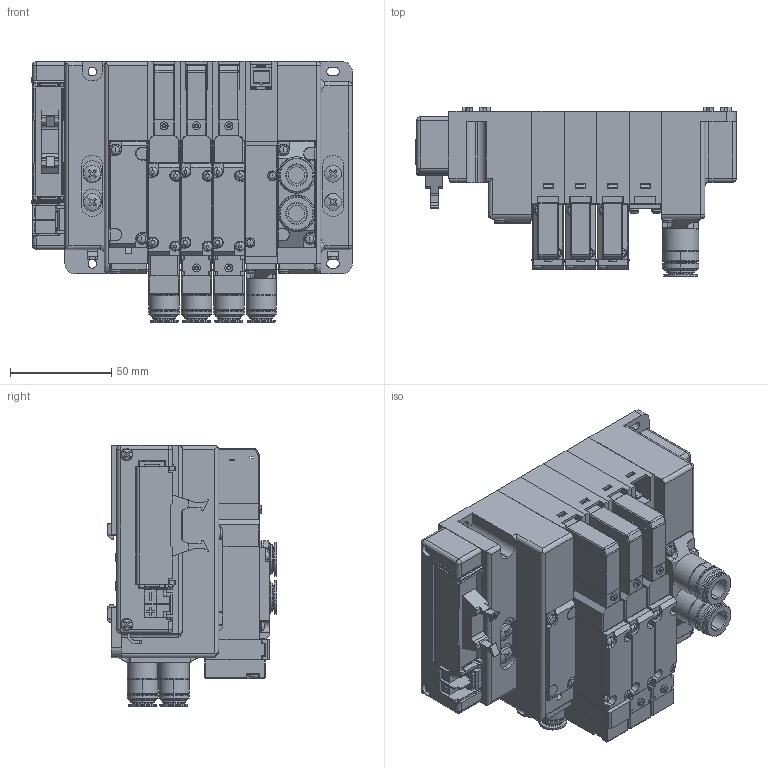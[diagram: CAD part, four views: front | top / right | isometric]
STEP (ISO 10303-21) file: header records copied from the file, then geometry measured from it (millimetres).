
FILE_DESCRIPTION( (''), '2;1');
FILE_NAME ('CVICAD02.4348.F15M4XPJ-JR-F10x-DN_21501.stp','2021-07-12T19:13:05',(''),(''),'spGate 12.6.6','','');
FILE_SCHEMA (('AUTOMOTIVE_DESIGN'));
Length unit declared in the file: millimetre
Products named in the file (21): Assembly; CVICAD02-prt0; CVICAD02-prt1; CVICAD02-prt2; CVICAD02-prt3; CVICAD02-asm1; CVICAD02-prt6; CVICAD02-prt7; CVICAD02-asm2; CVICAD02-asm3; CVICAD02-prt16; CVICAD02-prt4; CVICAD02-prt5; CVICAD02-prt8; CVICAD02-prt9; CVICAD02-prt10; CVICAD02-prt11; CVICAD02-prt12; CVICAD02-prt13; CVICAD02-prt14; CVICAD02-prt15
Assembly tree (35 placements, depth 3):
  Assembly
    CVICAD02-prt0  x4
    CVICAD02-prt1  x3
    CVICAD02-prt2
    CVICAD02-prt3  x4
    CVICAD02-asm1
      CVICAD02-prt4
      CVICAD02-prt5
    CVICAD02-prt6
    CVICAD02-prt7
    CVICAD02-asm2
      CVICAD02-prt8
      CVICAD02-prt9
      CVICAD02-prt10
      CVICAD02-prt11
      CVICAD02-prt12
      CVICAD02-prt13
      CVICAD02-prt14
    CVICAD02-asm3  x2
      CVICAD02-prt8
      CVICAD02-prt9
      CVICAD02-prt10
      CVICAD02-prt11
      CVICAD02-prt13
      CVICAD02-prt15
      CVICAD02-prt14
    CVICAD02-prt16
Bounding box: 158.4 x 83.8 x 129 mm (x, y, z)
Volume: 833232.2 mm3; surface area: 219551.1 mm2
Topology: 38 solids, 38 shells, 3858 faces, 10095 edges, 6488 vertices
Faces by surface type: plane 2450, cylinder 1007, bspline 335, sphere 66
Entity records: 108241 total; most frequent: CARTESIAN_POINT 14065, ORIENTED_EDGE 10836, DIRECTION 10175, COLOUR_RGB 7475, PRESENTATION_STYLE_ASSIGNMENT 7475, STYLED_ITEM 7475, EDGE_CURVE 5418, DRAUGHTING_PRE_DEFINED_CURVE_FONT 5418
